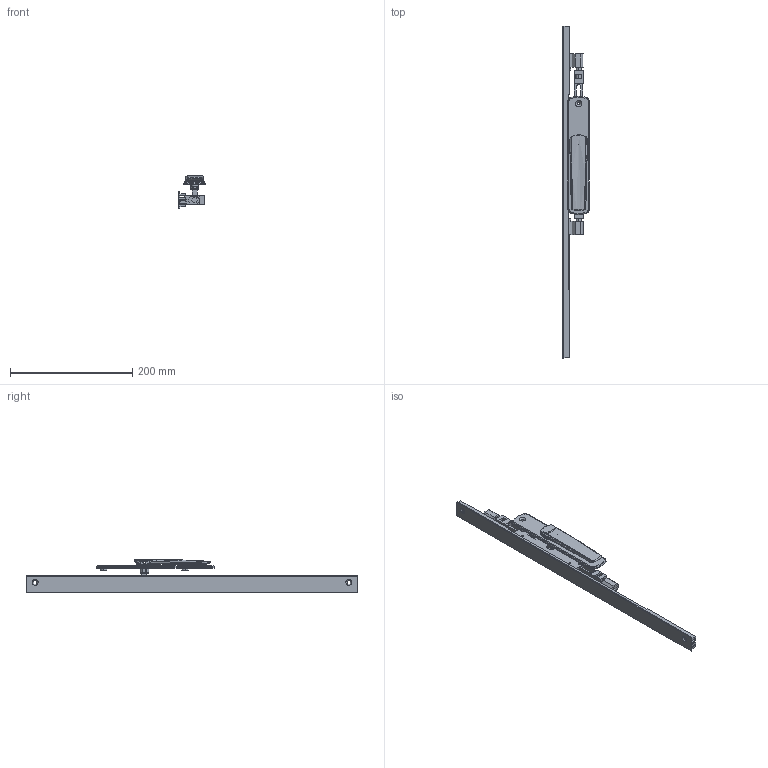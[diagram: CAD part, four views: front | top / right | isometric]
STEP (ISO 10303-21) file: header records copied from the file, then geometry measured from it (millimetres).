
FILE_DESCRIPTION (( 'STEP AP214' ), '1' );
FILE_NAME ('TPL-W-EU-604-L 06Nov2024.STEP', '2024-11-27T01:10:40', ( '' ), ( '' ), 'SwSTEP 2.0', 'SolidWorks 2023', '' );
FILE_SCHEMA (( 'AUTOMOTIVE_DESIGN' ));
Length unit declared in the file: millimetre
Products named in the file (18): Copy of LKC-584 Pivot body zinc - simplified^Copy of TPGen2 handle non-keyed short zinc - simplified_TPL-W-EU-104 04Nov2024; Copy of COV-112-C Cover C TPLGen2 Lock body^TPL-W-EU-104 04Nov2024; Copy of LKC-516 Escutcheon plate unkeyed 195mm long zinc - simplified^Copy of TPGen2 handle non-keyed short zinc - simplified_TPL-W-EU-104 04Nov2024; Copy of LKC-505 Swing handle zinc - simplified^Copy of TPGen2 handle non-keyed short zinc - simplified_TPL-W-EU-104 04Nov2024; Copy of TPLGen2 lock body non-keyed assembly^TPL-W-EU-104 04Nov2024_Bolts extended; Copy of LKC-585 Rotator body zinc^Copy of TPGen2 handle non-keyed short zinc - simplified_TPL-W-EU-104 04Nov2024; Copy of LKC-586 Spindle square 8mm with M4 hole^Copy of TPGen2 handle non-keyed short zinc - simplified_TPL-W-EU-104 04Nov2024_25mm; Copy of Adapter DnF - simplfied^TPL-W-EU-104 04Nov2024_26mm backset; Copy of TPLGen2 lock body non-keyed^Copy of TPLGen2 lock body non-keyed assembly_TPL-W-EU-104 04Nov2024; COV-112-A Cover A suit TPLGen2 standard range^TPL-W-EU-104 04Nov2024_2870mm; Copy of TPLGen2 push rod - simplified^Copy of TPLGen2 lock body non-keyed assembly_TPL-W-EU-104 04Nov2024_Female thread M10; Bolt.step; Copy of LKC-531-A Rod TPLGen2 machined bolt end^TPL-W-EU-104 04Nov2024_LKC-531-A-M003; TPL-W-EU-604-L 06Nov2024; Copy of Adapter CnE - simplfied^TPL-W-EU-104 04Nov2024_26mm backset; COV-112-B Cover B suit TPLGen2 standard range^TPL-W-EU-104 04Nov2024_2870mm; Bottom twinpoint transmission rod wood system^TPL-W-EU-104 04Nov2024_Standard Range 2891.7mm; Copy of TPGen2 handle non-keyed short zinc - simplified^TPL-W-EU-104 04Nov2024_Vertical
Assembly tree (15 placements, depth 3):
  COV-112-A Cover A suit TPLGen2 standard range^TPL-W-EU-104 04Nov2024_2870mm
  Bolt.step
  TPL-W-EU-604-L 06Nov2024
    Copy of TPLGen2 lock body non-keyed assembly^TPL-W-EU-104 04Nov2024_Bolts extended
      Copy of TPLGen2 lock body non-keyed^Copy of TPLGen2 lock body non-keyed assembly_TPL-W-EU-104 04Nov2024
      Copy of TPLGen2 push rod - simplified^Copy of TPLGen2 lock body non-keyed assembly_TPL-W-EU-104 04Nov2024_Female thread M10  x2
    Copy of TPGen2 handle non-keyed short zinc - simplified^TPL-W-EU-104 04Nov2024_Vertical
      Copy of LKC-516 Escutcheon plate unkeyed 195mm long zinc - simplified^Copy of TPGen2 handle non-keyed short zinc - simplified_TPL-W-EU-104 04Nov2024
      Copy of LKC-505 Swing handle zinc - simplified^Copy of TPGen2 handle non-keyed short zinc - simplified_TPL-W-EU-104 04Nov2024
      Copy of LKC-585 Rotator body zinc^Copy of TPGen2 handle non-keyed short zinc - simplified_TPL-W-EU-104 04Nov2024
      Copy of LKC-586 Spindle square 8mm with M4 hole^Copy of TPGen2 handle non-keyed short zinc - simplified_TPL-W-EU-104 04Nov2024_25mm
      Copy of LKC-584 Pivot body zinc - simplified^Copy of TPGen2 handle non-keyed short zinc - simplified_TPL-W-EU-104 04Nov2024
    Copy of COV-112-C Cover C TPLGen2 Lock body^TPL-W-EU-104 04Nov2024
    Bottom twinpoint transmission rod wood system^TPL-W-EU-104 04Nov2024_Standard Range 2891.7mm
    Copy of LKC-531-A Rod TPLGen2 machined bolt end^TPL-W-EU-104 04Nov2024_LKC-531-A-M003
    Copy of Adapter DnF - simplfied^TPL-W-EU-104 04Nov2024_26mm backset
    Copy of Adapter CnE - simplfied^TPL-W-EU-104 04Nov2024_26mm backset
  COV-112-B Cover B suit TPLGen2 standard range^TPL-W-EU-104 04Nov2024_2870mm
Bounding box: 43.5 x 544 x 53.86 mm (x, y, z)
Volume: 206959 mm3; surface area: 118650.4 mm2
Topology: 13 solids, 13 shells, 857 faces, 2119 edges, 1317 vertices
Faces by surface type: plane 310, bspline 241, cylinder 186, cone 66, torus 46, sphere 8
Entity records: 30895 total; most frequent: CARTESIAN_POINT 12601, ORIENTED_EDGE 4046, DIRECTION 3230, EDGE_CURVE 2023, VERTEX_POINT 1257, AXIS2_PLACEMENT_3D 1164, EDGE_LOOP 904, VECTOR 902
